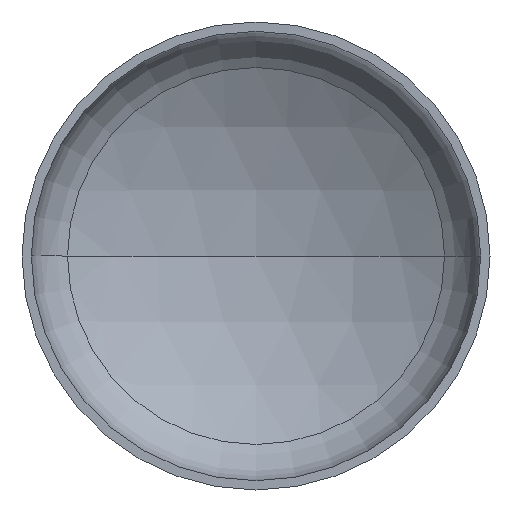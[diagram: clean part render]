
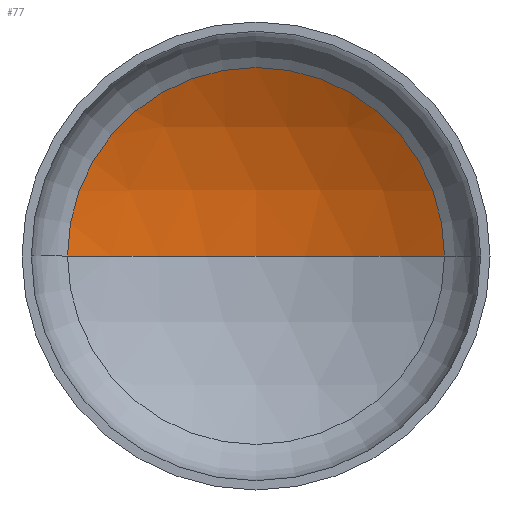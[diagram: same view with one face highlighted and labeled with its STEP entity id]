
A CAD part, front view. The second image highlights one B-rep face of the part: STEP entity #77.
In plain terms, the highlighted spherical face has radius 720 mm.
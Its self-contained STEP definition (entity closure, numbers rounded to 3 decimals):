
#4 = AXIS2_PLACEMENT_3D ( 'NONE', #212, #335, #182 ) ;
#6 = AXIS2_PLACEMENT_3D ( 'NONE', #260, #130, #203 ) ;
#7 = AXIS2_PLACEMENT_3D ( 'NONE', #113, #120, #86 ) ;
#28 = CIRCLE ( 'NONE', #7, 720. ) ;
#32 = ORIENTED_EDGE ( 'NONE', *, *, #354, .T. ) ;
#35 = EDGE_LOOP ( 'NONE', ( #110, #32, #103 ) ) ;
#52 = AXIS2_PLACEMENT_3D ( 'NONE', #343, #352, #351 ) ;
#77 = ADVANCED_FACE ( 'NONE', ( #409 ), #405, .F. ) ;
#86 = DIRECTION ( 'NONE',  ( 1., 0., 0. ) ) ;
#102 = VERTEX_POINT ( 'NONE', #375 ) ;
#103 = ORIENTED_EDGE ( 'NONE', *, *, #366, .T. ) ;
#104 = VERTEX_POINT ( 'NONE', #376 ) ;
#110 = ORIENTED_EDGE ( 'NONE', *, *, #356, .F. ) ;
#113 = CARTESIAN_POINT ( 'NONE',  ( 0., -446.135, 0. ) ) ;
#118 = VERTEX_POINT ( 'NONE', #220 ) ;
#120 = DIRECTION ( 'NONE',  ( 0., 0., 1. ) ) ;
#130 = DIRECTION ( 'NONE',  ( 0., 0., -1. ) ) ;
#182 = DIRECTION ( 'NONE',  ( 1., 0., 0. ) ) ;
#203 = DIRECTION ( 'NONE',  ( -1., 0., 0. ) ) ;
#212 = CARTESIAN_POINT ( 'NONE',  ( 0., 175.964, 0. ) ) ;
#220 = CARTESIAN_POINT ( 'NONE',  ( -362.483, 175.964, 0. ) ) ;
#260 = CARTESIAN_POINT ( 'NONE',  ( 0., -446.135, 0. ) ) ;
#290 = CIRCLE ( 'NONE', #6, 720. ) ;
#335 = DIRECTION ( 'NONE',  ( 0., -1., 0. ) ) ;
#343 = CARTESIAN_POINT ( 'NONE',  ( 0., -446.135, 0. ) ) ;
#351 = DIRECTION ( 'NONE',  ( -1., 0., 0. ) ) ;
#352 = DIRECTION ( 'NONE',  ( 0., 0., -1. ) ) ;
#354 = EDGE_CURVE ( 'NONE', #102, #104, #290, .T. ) ;
#356 = EDGE_CURVE ( 'NONE', #102, #118, #28, .T. ) ;
#366 = EDGE_CURVE ( 'NONE', #104, #118, #369, .T. ) ;
#369 = CIRCLE ( 'NONE', #4, 362.483 ) ;
#375 = CARTESIAN_POINT ( 'NONE',  ( 0., 273.865, 0. ) ) ;
#376 = CARTESIAN_POINT ( 'NONE',  ( 362.483, 175.964, 0. ) ) ;
#405 = SPHERICAL_SURFACE ( 'NONE', #52, 720. ) ;
#409 = FACE_OUTER_BOUND ( 'NONE', #35, .T. ) ;
